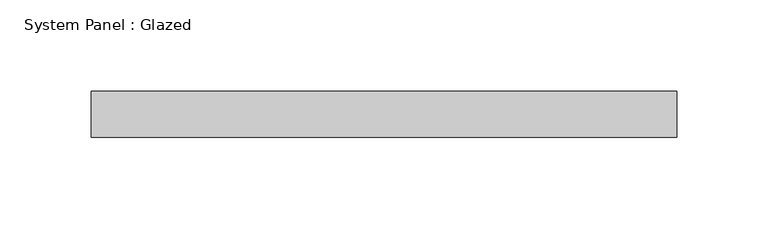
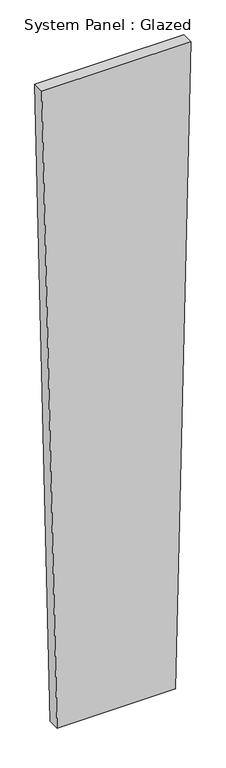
"""IFC4 building model written with IfcOpenShell, lengths in millimetres: plate geometry, System Panel : Glazed."""

from ifc_helpers import new_model, si_unit, frame, origin, place, context, project, spatial, polyline, outline, extrude, source, transform, mapped, element, save


def system_panel_glazed_21487f38(model_context):
    return source(origin(), model_context, "Body", "SweptSolid", [
        extrude(outline(polyline([(0.0, -127.9634208), (0.0, 127.9634208), (1460.1121076, 160.9128018), (1460.1121076, -160.9128018), (0.0, -127.9634208)])), frame((0.0, -44.45, 0.0), z_axis=(0.0, 1.0, 0.0), x_axis=(0.0, 0.0, 1.0)), (0.0, 0.0, 1.0), 25.4),
    ])


if __name__ == "__main__":
    model = new_model("IFC4")
    model_context = context("Model", 3, world=origin())
    ifc_project = project(units=[si_unit("LENGTHUNIT", "METRE", prefix="MILLI")], contexts=[model_context])
    site = spatial("IfcSite", under=ifc_project)
    building = spatial("IfcBuilding", under=site)
    placement = place(None, origin())
    system_panel_glazed_shape = system_panel_glazed_21487f38(model_context)
    element("IfcPlate", 1, ObjectType="System Panel : Glazed", at=placement, inside=building, context=model_context, shape_type="MappedRepresentation", body=[
        mapped(system_panel_glazed_shape, transform((0.0, 0.0, 0.0), x_axis=(1.0, 0.0, 0.0), y_axis=(0.0, 1.0, 0.0), z_axis=(0.0, 0.0, 1.0))),
    ])
    save(model, "model.ifc")
